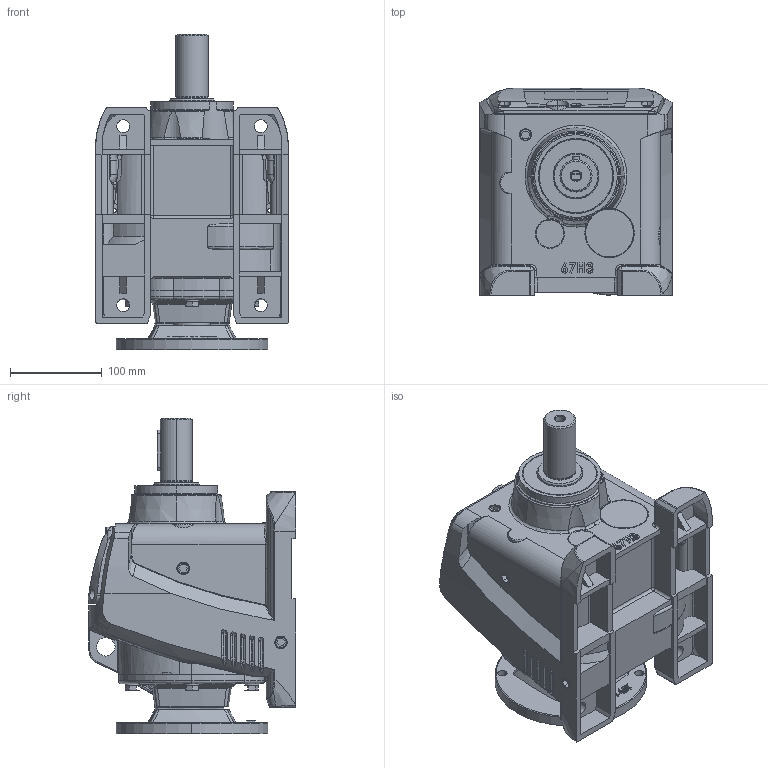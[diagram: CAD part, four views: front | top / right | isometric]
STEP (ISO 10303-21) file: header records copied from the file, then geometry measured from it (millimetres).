
FILE_DESCRIPTION (( 'STEP AP203' ), '1' );
FILE_NAME ('WINL67-145TC.STEP', '2013-09-26T09:17:53', ( 'User' ), ( 'Chenta' ), 'SwSTEP 2.0', 'SolidWorks 2011', '' );
FILE_SCHEMA (( 'CONFIG_CONTROL_DESIGN' ));
Length unit declared in the file: millimetre
Products named in the file (1): WINL67-145TC
Bounding box: 210 x 225.78 x 343.5 mm (x, y, z)
Surface area: 429175.4 mm2 (no closed solid volume)
Topology: 0 solids, 39 shells, 1163 faces, 3403 edges, 2247 vertices
Faces by surface type: plane 411, bspline 308, cylinder 273, cone 97, torus 48, sphere 26
Entity records: 57842 total; most frequent: CARTESIAN_POINT 29862, ORIENTED_EDGE 6073, DIRECTION 4939, EDGE_CURVE 3378, VERTEX_POINT 2247, AXIS2_PLACEMENT_3D 1747, VECTOR 1445, LINE 1445
